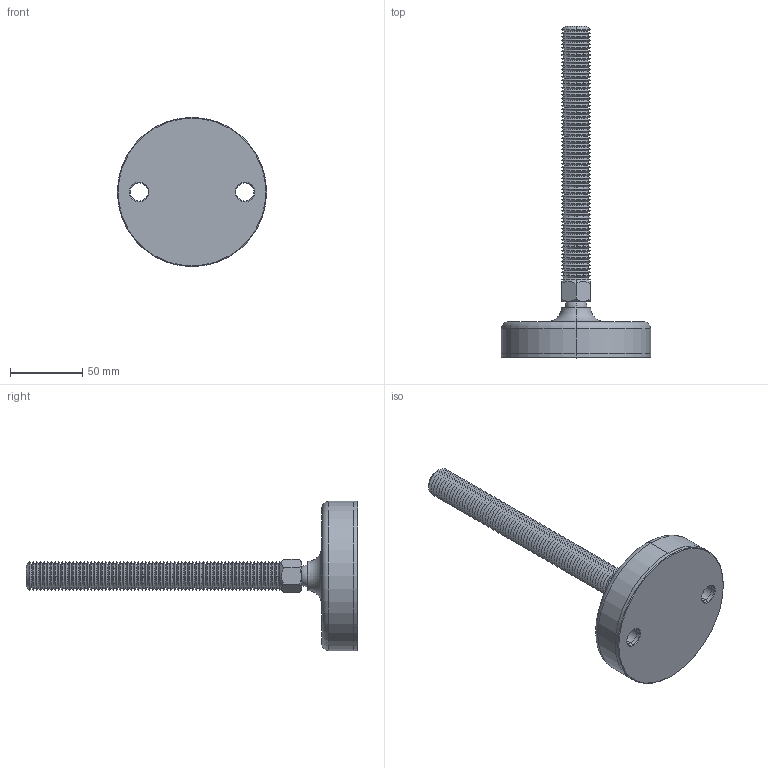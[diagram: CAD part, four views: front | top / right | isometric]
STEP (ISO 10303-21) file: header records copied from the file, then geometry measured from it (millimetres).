
FILE_DESCRIPTION (( 'STEP AP203' ), '1' );
FILE_NAME ('34724.W2011.step', '2019-11-28T22:18:35', ( '' ), ( '' ), 'SwSTEP 2.0', 'SolidWorks 2017', '' );
FILE_SCHEMA (( 'CONFIG_CONTROL_DESIGN' ));
Length unit declared in the file: millimetre
Products named in the file (4): 34724.W2011; Part2_34724.W2011; Part3_34724.W2011; Part1_34724.W2011
Assembly tree (3 placements, depth 2):
  34724.W2011
    Part1_34724.W2011
    Part2_34724.W2011
    Part3_34724.W2011
Bounding box: 103 x 229 x 103 mm (x, y, z)
Volume: 254859.4 mm3; surface area: 63689 mm2
Topology: 3 solids, 3 shells, 328 faces, 671 edges, 349 vertices
Faces by surface type: cone 294, plane 14, cylinder 12, sphere 4, torus 4
Entity records: 8866 total; most frequent: DIRECTION 1656, CARTESIAN_POINT 1492, ORIENTED_EDGE 1324, AXIS2_PLACEMENT_3D 672, EDGE_CURVE 662, VERTEX_POINT 344, EDGE_LOOP 340, CIRCLE 338
